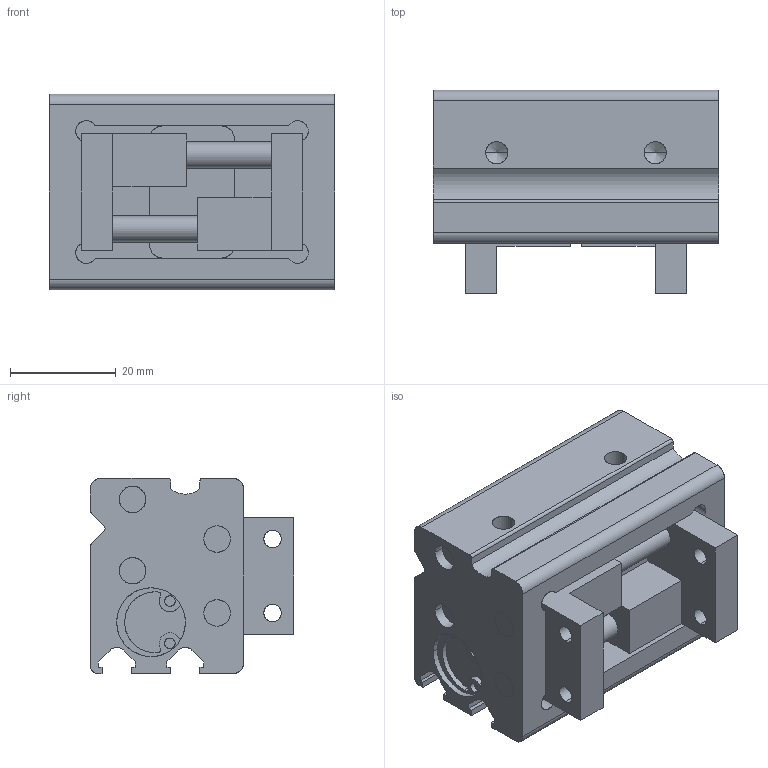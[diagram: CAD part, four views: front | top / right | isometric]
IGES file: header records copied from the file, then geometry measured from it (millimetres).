
Start section: SolidWorks IGES file using analytic representation for surfaces
Global section: file name: C:\Documents and Settings\CAD53\デスクトップ\追加の３Dデータ\薄型平行ハンド\IGES\HLA-12AS\071996.IGS; native system: SolidWorks 2006 by SolidWorks Corporation; preprocessor: SolidWorks 2006 by SolidWorks Corporation; author: CAD53; date: 071115.091307; units: millimetre
Bounding box: 54 x 38.5 x 37 mm (x, y, z)
Surface area: 20038.8 mm2 (no closed solid volume)
Topology: 0 solids, 0 shells, 184 faces, 3152 edges, 3144 vertices
Faces by surface type: revolution 109, bspline 75
